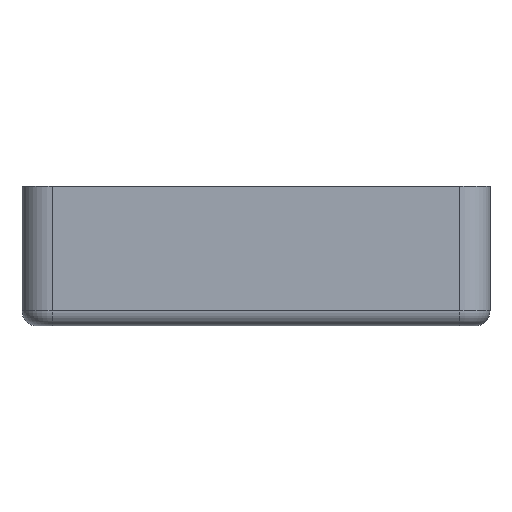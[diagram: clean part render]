
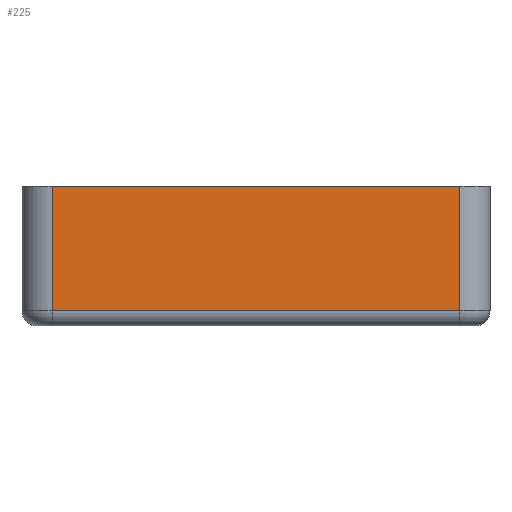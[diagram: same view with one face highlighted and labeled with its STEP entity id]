
A CAD part, left-side view. The second image highlights one B-rep face of the part: STEP entity #225.
In plain terms, the highlighted planar face has unit normal (-1, 0, 0).
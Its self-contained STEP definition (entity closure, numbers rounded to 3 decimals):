
#190 = VECTOR ( 'NONE', #1739, 1000. ) ;
#225 = ADVANCED_FACE ( 'NONE', ( #1021 ), #813, .F. ) ;
#416 = CARTESIAN_POINT ( 'NONE',  ( -38.212, 20.25, 12.3 ) ) ;
#450 = CARTESIAN_POINT ( 'NONE',  ( -38.212, 20.25, 12.3 ) ) ;
#508 = ORIENTED_EDGE ( 'NONE', *, *, #2737, .T. ) ;
#644 = CARTESIAN_POINT ( 'NONE',  ( -38.212, 20.25, 12.3 ) ) ;
#669 = CARTESIAN_POINT ( 'NONE',  ( -38.212, -20.25, 12.3 ) ) ;
#687 = DIRECTION ( 'NONE',  ( 0., -1., 0. ) ) ;
#703 = VERTEX_POINT ( 'NONE', #669 ) ;
#743 = ORIENTED_EDGE ( 'NONE', *, *, #1917, .T. ) ;
#765 = VECTOR ( 'NONE', #1783, 1000. ) ;
#813 = PLANE ( 'NONE',  #1121 ) ;
#883 = DIRECTION ( 'NONE',  ( 0., 0., -1. ) ) ;
#909 = LINE ( 'NONE', #1821, #2756 ) ;
#960 = LINE ( 'NONE', #2553, #1324 ) ;
#961 = EDGE_LOOP ( 'NONE', ( #508, #743, #1217, #2497 ) ) ;
#1021 = FACE_OUTER_BOUND ( 'NONE', #961, .T. ) ;
#1038 = DIRECTION ( 'NONE',  ( 1., 0., 0. ) ) ;
#1079 = EDGE_CURVE ( 'NONE', #703, #1637, #1129, .T. ) ;
#1121 = AXIS2_PLACEMENT_3D ( 'NONE', #644, #1038, #883 ) ;
#1129 = LINE ( 'NONE', #2681, #765 ) ;
#1214 = CARTESIAN_POINT ( 'NONE',  ( -38.212, -20.25, -0.1 ) ) ;
#1217 = ORIENTED_EDGE ( 'NONE', *, *, #1079, .F. ) ;
#1324 = VECTOR ( 'NONE', #1640, 1000. ) ;
#1594 = CARTESIAN_POINT ( 'NONE',  ( -38.212, 20.25, -0.1 ) ) ;
#1637 = VERTEX_POINT ( 'NONE', #1214 ) ;
#1640 = DIRECTION ( 'NONE',  ( 0., -1., 0. ) ) ;
#1739 = DIRECTION ( 'NONE',  ( 0., 0., -1. ) ) ;
#1783 = DIRECTION ( 'NONE',  ( 0., 0., -1. ) ) ;
#1821 = CARTESIAN_POINT ( 'NONE',  ( -38.212, -20.25, -0.1 ) ) ;
#1884 = VERTEX_POINT ( 'NONE', #1594 ) ;
#1917 = EDGE_CURVE ( 'NONE', #1884, #1637, #909, .T. ) ;
#2216 = EDGE_CURVE ( 'NONE', #2408, #703, #960, .T. ) ;
#2408 = VERTEX_POINT ( 'NONE', #450 ) ;
#2444 = LINE ( 'NONE', #416, #190 ) ;
#2497 = ORIENTED_EDGE ( 'NONE', *, *, #2216, .F. ) ;
#2553 = CARTESIAN_POINT ( 'NONE',  ( -38.212, 20.25, 12.3 ) ) ;
#2681 = CARTESIAN_POINT ( 'NONE',  ( -38.212, -20.25, 12.3 ) ) ;
#2737 = EDGE_CURVE ( 'NONE', #2408, #1884, #2444, .T. ) ;
#2756 = VECTOR ( 'NONE', #687, 1000. ) ;
